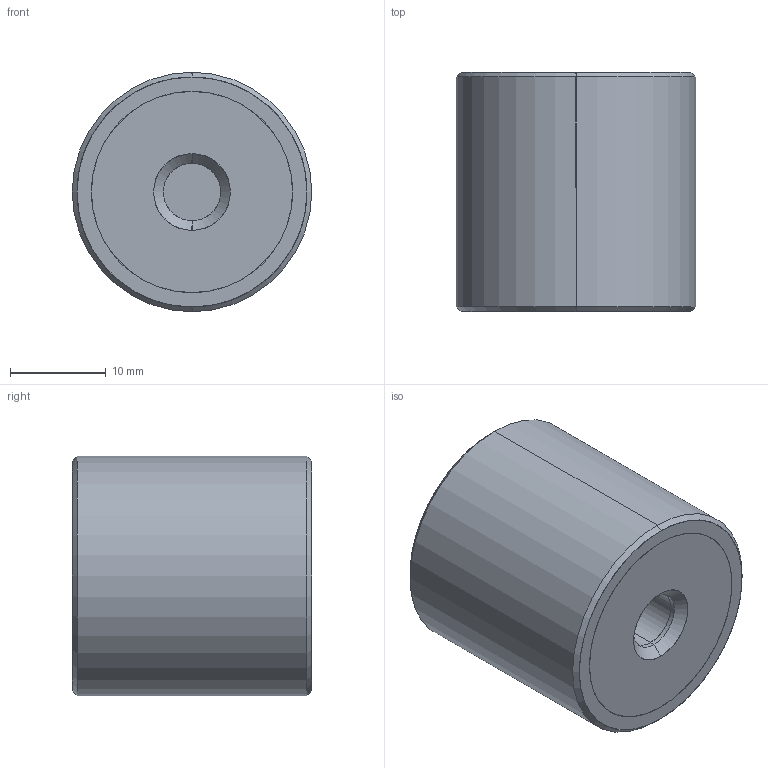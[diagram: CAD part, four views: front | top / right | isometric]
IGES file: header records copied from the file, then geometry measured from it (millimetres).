
Start section: SolidWorks IGES file using analytic representation for surfaces
Global section: file name: E:\WIXROYD 20180701\61080_v2\61080_v2_20180409_IGES\61080.W0252.igs; native system: SolidWorks 2017; preprocessor: SolidWorks 2017; author: liam_; date: 180716.214323; units: millimetre
Bounding box: 25 x 25 x 25 mm (x, y, z)
Surface area: 4773.5 mm2 (no closed solid volume)
Topology: 0 solids, 0 shells, 36 faces, 680 edges, 680 vertices
Faces by surface type: revolution 26, bspline 10
